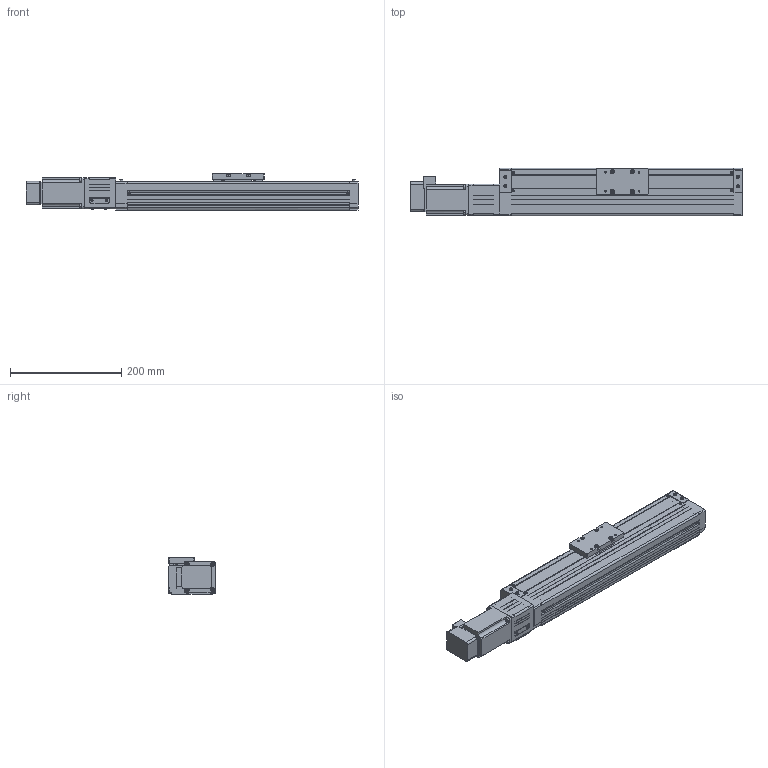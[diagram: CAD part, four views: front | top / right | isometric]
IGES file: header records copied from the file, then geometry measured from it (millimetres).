
Global section: file name: No Iges File Name specified; native system: AutoDesk Inventor R10; preprocessor: AutoDesk Inventor Iges Exporter R10; author: No Author specified; organization: No Organization specified; date: 20110702.133334; units: millimetre
Bounding box: 596.5 x 85 x 65 mm (x, y, z)
Surface area: 348156.8 mm2 (no closed solid volume)
Topology: 0 solids, 0 shells, 1083 faces, 6670 edges, 6642 vertices
Faces by surface type: bspline 1083
